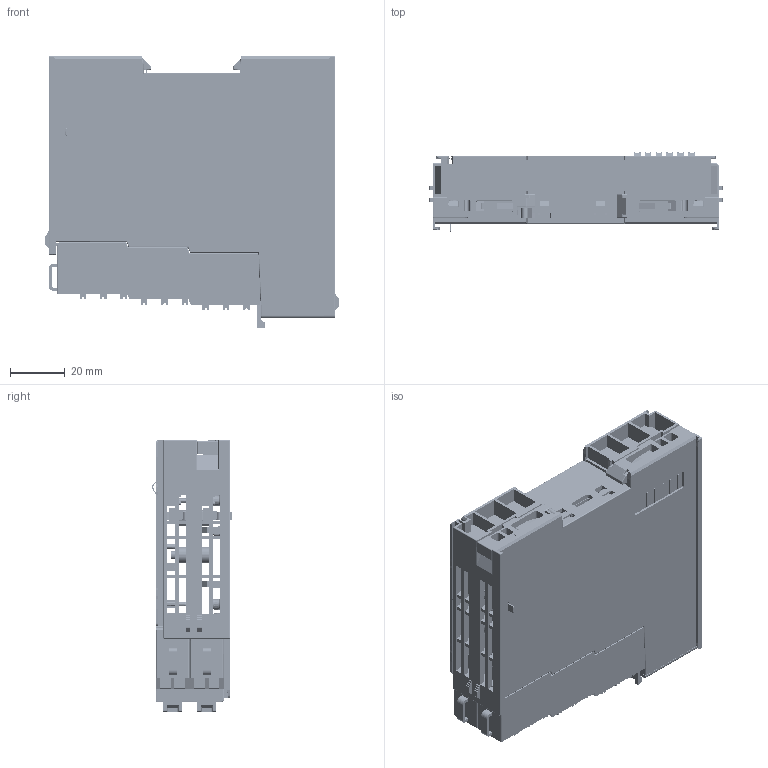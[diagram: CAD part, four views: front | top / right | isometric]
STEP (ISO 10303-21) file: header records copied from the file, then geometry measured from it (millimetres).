
FILE_DESCRIPTION((''),'2;1');
FILE_NAME('00-KZMK-25_ASM','2023-09-04T11:13:27',('Administrator'),(''),'CREO PARAMETRIC BY PTC INC, 2019080','CREO PARAMETRIC BY PTC INC, 2019080','');
FILE_SCHEMA(('CONFIG_CONTROL_DESIGN'));
Products named in the file (21): 80740373; 80740375; 80880795; 80880796; PCB-A15-250KZB1_AF0; 77559742_AF0; 89200106_AF1; 89200106_AF0; CXLJQ-Y-0722; CXLJQ-Z-1216; DDD1; PCB-A15-250KZB1-B; PCB-A15-250KZB1_ASM; PCB-A15-250KZB1-JX1-250KZB2-SZL; 77559739; 77559742; PK2205-USB; PCB-A15-250KZB2-SZL_ASM; PCB-A15-250KZ_ASM; 2X9-0131; 00-KZMK-25_ASM
Assembly tree (58 placements, depth 4):
  00-KZMK-25_ASM
    80740373
    80740375
    80880795
    80880796
    PCB-A15-250KZ_ASM
      PCB-A15-250KZB1_ASM
        PCB-A15-250KZB1_AF0
        77559742_AF0
        89200106_AF1
        89200106_AF0
        CXLJQ-Y-0722
        CXLJQ-Z-1216
        DDD1  x18
        PCB-A15-250KZB1-B
      PCB-A15-250KZB2-SZL_ASM
        PCB-A15-250KZB1-JX1-250KZB2-SZL
        77559739
        77559742
        CXLJQ-Y-0722
        CXLJQ-Z-1216
        DDD1  x18
        PK2205-USB
    2X9-0131  x2
Bounding box: 108 x 29.2 x 99.5 mm (x, y, z)
Volume: 92239.4 mm3; surface area: 119062.8 mm2
Topology: 79 solids, 89 shells, 11413 faces, 32448 edges, 21149 vertices
Faces by surface type: plane 8885, cylinder 1799, bspline 425, cone 174, torus 94, sphere 36
Entity records: 213386 total; most frequent: CARTESIAN_POINT 52796, ORIENTED_EDGE 34892, DIRECTION 31060, EDGE_CURVE 17484, VECTOR 13826, LINE 13826, VERTEX_POINT 11397, AXIS2_PLACEMENT_3D 8617
